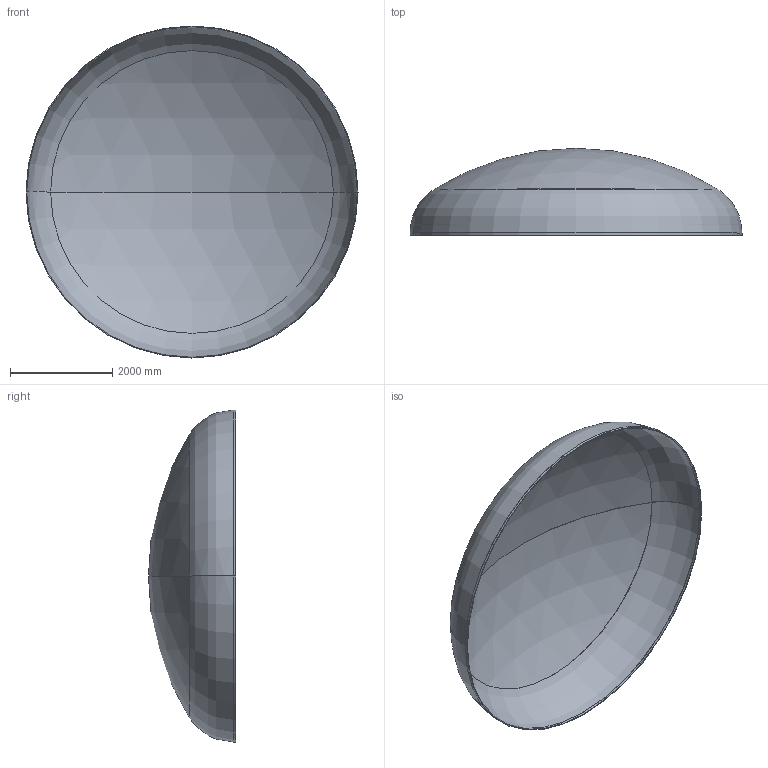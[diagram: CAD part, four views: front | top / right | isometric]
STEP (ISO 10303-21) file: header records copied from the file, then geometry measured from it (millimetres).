
FILE_DESCRIPTION (( 'STEP AP203' ), '1' );
FILE_NAME ('DIN 28013 Korbbogenform_-_Boden DIN 28013 - 6500 x 45 - I - s=14.step', '2016-07-04T10:40:02', ( '' ), ( '' ), 'SwSTEP 2.0', 'SolidWorks 2013', '' );
FILE_SCHEMA (( 'CONFIG_CONTROL_DESIGN' ));
Length unit declared in the file: millimetre
Products named in the file (1): DIN 28013 Korbbogenform_-_Boden DIN 28013 - 6500 x 45 - I - s=14
Bounding box: 6500 x 1703.68 x 6500 mm (x, y, z)
Volume: 654352745.7 mm3; surface area: 93764604.8 mm2
Topology: 1 solids, 1 shells, 13 faces, 24 edges, 14 vertices
Faces by surface type: torus 4, cylinder 4, sphere 4, plane 1
Entity records: 407 total; most frequent: DIRECTION 72, CARTESIAN_POINT 52, ORIENTED_EDGE 48, AXIS2_PLACEMENT_3D 34, EDGE_CURVE 24, CIRCLE 20, VERTEX_POINT 14, EDGE_LOOP 14
